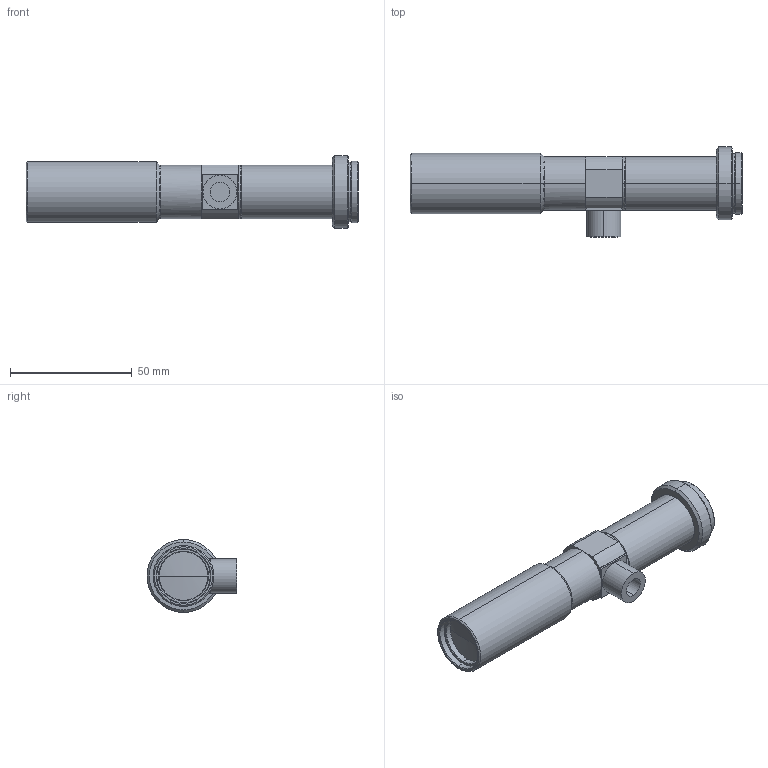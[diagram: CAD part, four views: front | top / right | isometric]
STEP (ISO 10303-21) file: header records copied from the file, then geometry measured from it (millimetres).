
FILE_DESCRIPTION (( 'STEP AP203' ), '1' );
FILE_NAME ('TC1-150CO.STEP', '2014-02-28T08:36:32', ( '' ), ( '' ), 'SwSTEP 2.0', 'SolidWorks 2012', '' );
FILE_SCHEMA (( 'CONFIG_CONTROL_DESIGN' ));
Length unit declared in the file: millimetre
Products named in the file (1): TC1-150CO
Bounding box: 136.5 x 37 x 30 mm (x, y, z)
Volume: 49913.5 mm3; surface area: 15428.8 mm2
Topology: 1 solids, 1 shells, 97 faces, 202 edges, 117 vertices
Faces by surface type: cone 34, cylinder 32, plane 29, sphere 2
Entity records: 2631 total; most frequent: DIRECTION 500, CARTESIAN_POINT 417, ORIENTED_EDGE 404, EDGE_CURVE 202, AXIS2_PLACEMENT_3D 200, VERTEX_POINT 117, EDGE_LOOP 107, CIRCLE 102
